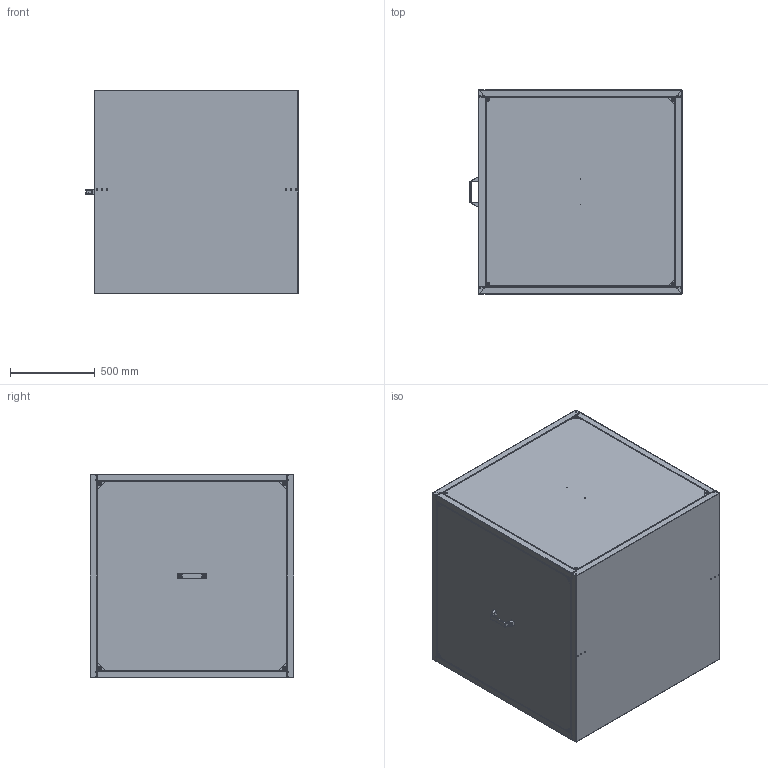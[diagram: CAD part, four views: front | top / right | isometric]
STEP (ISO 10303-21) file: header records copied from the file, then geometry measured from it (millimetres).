
FILE_DESCRIPTION (( 'STEP AP203' ), '1' );
FILE_NAME ('150953-00_MPC710D640_step.step', '2020-07-22T08:31:22', ( '' ), ( '' ), 'SwSTEP 2.0', 'SolidWorks 2017', '' );
FILE_SCHEMA (( 'CONFIG_CONTROL_DESIGN' ));
Length unit declared in the file: millimetre
Products named in the file (2): 150953-00_MPC710D640_step
Bounding box: 1252 x 1200.2 x 1200 mm (x, y, z)
Surface area: 19226730.8 mm2 (no closed solid volume)
Topology: 0 solids, 141 shells, 558 faces, 3296 edges, 2826 vertices
Faces by surface type: cylinder 258, plane 250, cone 22, torus 20, bspline 8
Entity records: 33856 total; most frequent: CARTESIAN_POINT 7370, DIRECTION 5864, ORIENTED_EDGE 3924, EDGE_CURVE 3296, VERTEX_POINT 2826, AXIS2_PLACEMENT_3D 2116, VECTOR 1632, LINE 1632
